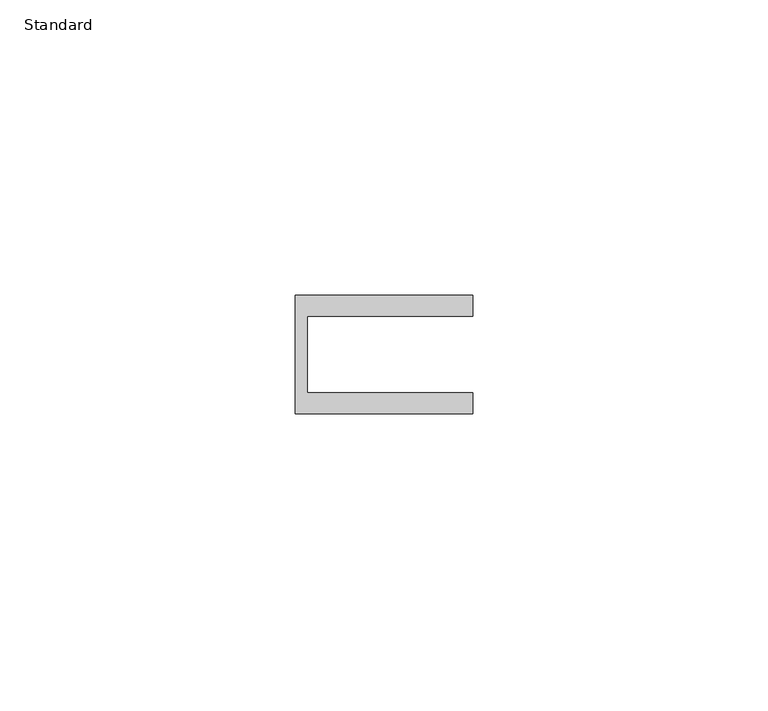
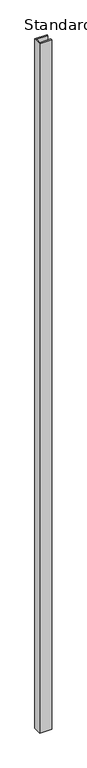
"""IFC4 building model written with IfcOpenShell, lengths in millimetres: furniture geometry, X_Partition-Channel-Duracube-End : Standard."""

from ifc_helpers import new_model, si_unit, frame, origin, place, context, project, spatial, polyline, outline, extrude, source, transform, mapped, element, save


def standard_26855e31(model_context):
    return source(origin(), model_context, "Body", "SweptSolid", [
        extrude(outline(polyline([(31.7003264, 0.0), (59.7003264, 0.0), (59.7003264, -3.5), (29.7003264, -3.5), (29.7003264, 16.5), (59.7003264, 16.5), (59.7003264, 13.0), (31.7003264, 13.0), (31.7003264, 0.0)])), frame((0.0, 0.0, 200.0), z_axis=(0.0, 0.0, 1.0), x_axis=(1.0, 0.0, 0.0)), (0.0, 0.0, 1.0), 1799.0),
    ])


if __name__ == "__main__":
    model = new_model("IFC4")
    model_context = context("Model", 3, world=origin())
    ifc_project = project(units=[si_unit("LENGTHUNIT", "METRE", prefix="MILLI")], contexts=[model_context])
    site = spatial("IfcSite", under=ifc_project)
    building = spatial("IfcBuilding", under=site)
    placement = place(None, origin())
    standard_shape = standard_26855e31(model_context)
    element("IfcFurniture", 1, ObjectType="X_Partition-Channel-Duracube-End : Standard", at=placement, inside=building, context=model_context, shape_type="MappedRepresentation", body=[
        mapped(standard_shape, transform((0.0, 0.0, 0.0), x_axis=(1.0, 0.0, 0.0), y_axis=(0.0, 1.0, 0.0), z_axis=(0.0, 0.0, 1.0))),
    ])
    save(model, "model.ifc")
